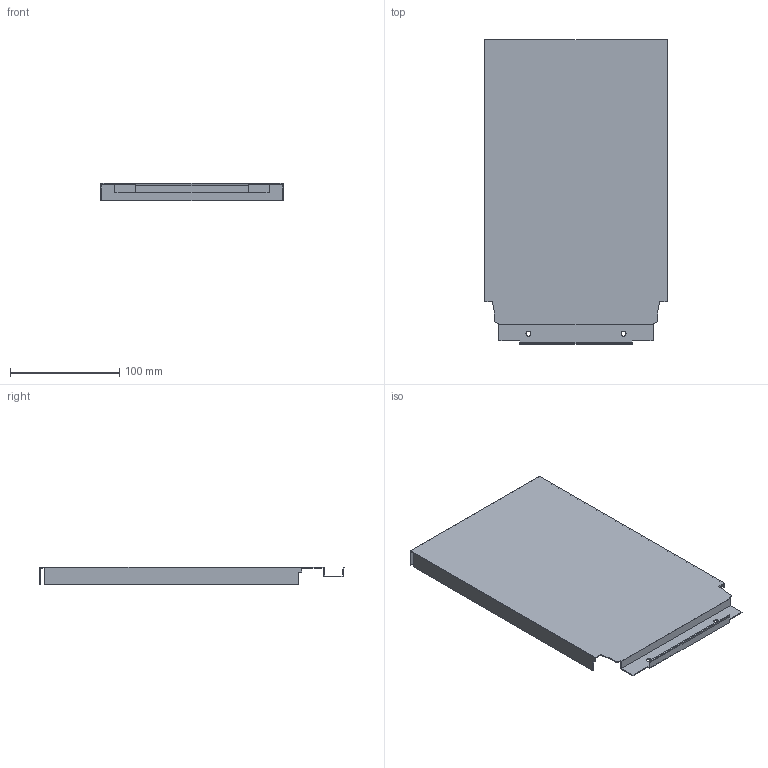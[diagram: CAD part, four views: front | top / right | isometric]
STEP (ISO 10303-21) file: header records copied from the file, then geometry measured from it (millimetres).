
FILE_DESCRIPTION (( 'STEP AP214' ), '1' );
FILE_NAME ('_DWD_XP Stahlrückwand_H278_KAB250_S16.step', '2010-07-08T13:03:42', ( 'grass' ), ( '' ), 'SwSTEP 2.0', 'SolidWorks 2010', '' );
FILE_SCHEMA (( 'AUTOMOTIVE_DESIGN' ));
Length unit declared in the file: millimetre
Products named in the file (1): _DWD_XP Stahlrückwand_H278_KAB250_S16
Bounding box: 167 x 278.57 x 16 mm (x, y, z)
Volume: 50137.8 mm3; surface area: 114849.5 mm2
Topology: 1 solids, 1 shells, 44 faces, 126 edges, 84 vertices
Faces by surface type: plane 40, cylinder 4
Entity records: 1460 total; most frequent: CARTESIAN_POINT 255, ORIENTED_EDGE 252, DIRECTION 224, EDGE_CURVE 126, VECTOR 118, LINE 118, VERTEX_POINT 84, AXIS2_PLACEMENT_3D 53
